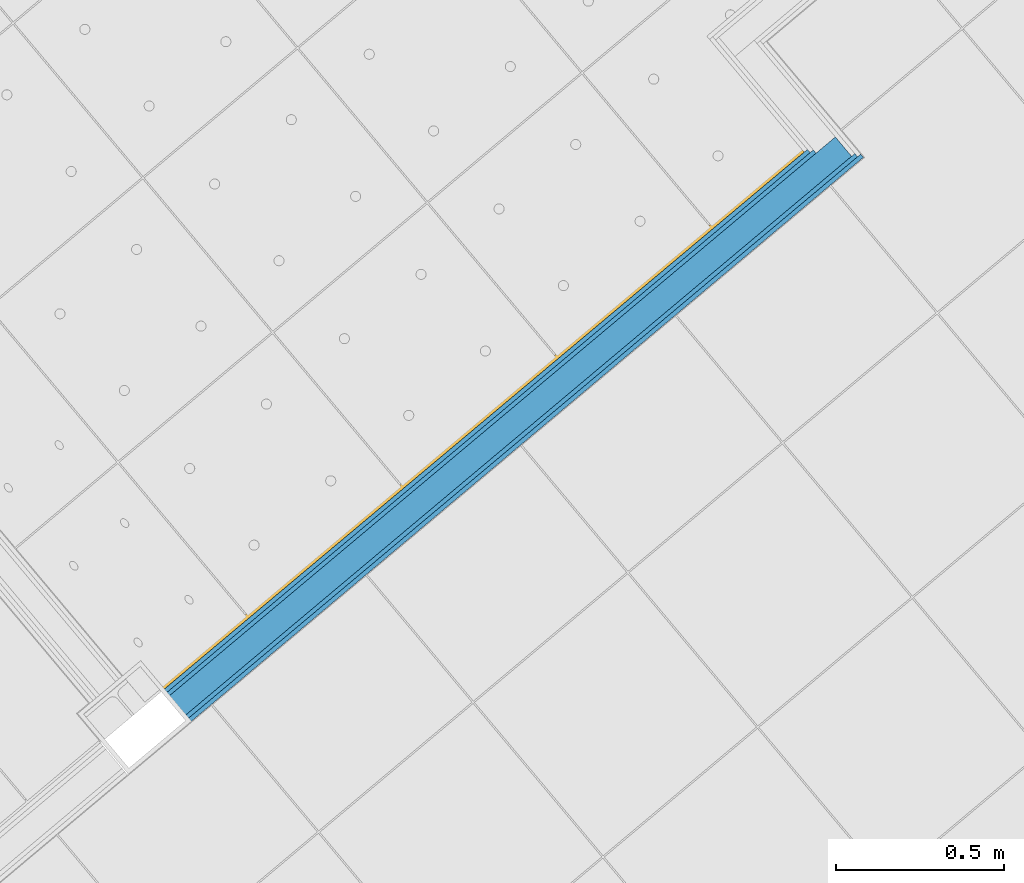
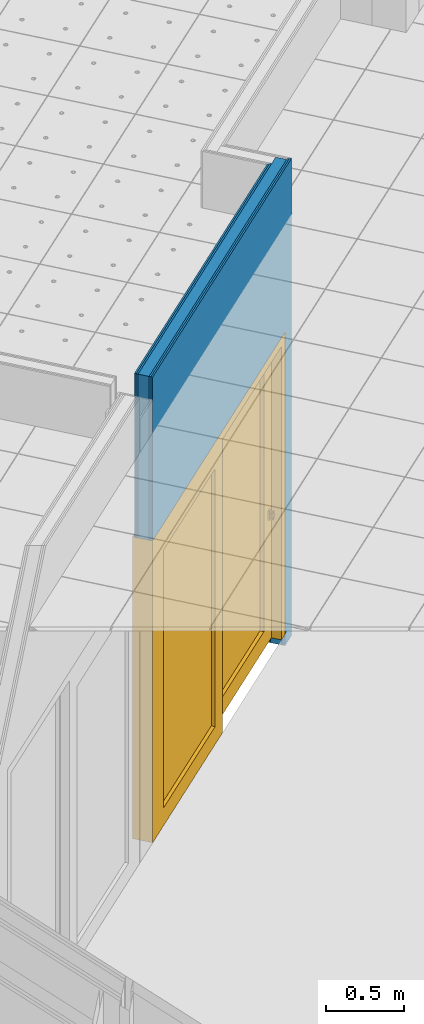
# One storey, part 9 of 338: 5 building element parts, 1 door, 1 opening, 1 element without a shape of its own.
"""IFC2X3 building model written with IfcOpenShell, lengths in millimetres."""

from ifc_helpers import new_model, entity, si_unit, converted_unit, derived_unit, money_unit, direction, frame, origin_with_axes, place, context, subcontext, project, spatial, open_shell, faceted_brep, surface_model, source, transform, mapped, material, type_object, type_shapes, element, fill, aggregate, save


model = new_model("IFC2X3")

# Units and contexts
model_context = context("Model", 3, precision=0.01, world=origin_with_axes(), true_north=direction((0.0, 1.0)))
plan_context = context("Plan", 3, precision=0.01, world=origin_with_axes(), true_north=direction((0.0, 1.0)))
body_context = subcontext(model_context, "Body", "Model", "MODEL_VIEW")
ifc_project = project(units=[si_unit("LENGTHUNIT", "METRE", prefix="MILLI"), si_unit("AREAUNIT", "SQUARE_METRE"), si_unit("VOLUMEUNIT", "CUBIC_METRE"), converted_unit("PLANEANGLEUNIT", "DEGREE", entity("IfcPlaneAngleMeasure", 0.0174532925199), si_unit("PLANEANGLEUNIT", "RADIAN"), dimensions=[0, 0, 0, 0, 0, 0, 0]), money_unit("EUR"), converted_unit("TIMEUNIT", "Year", entity("IfcTimeMeasure", 31556926.0), si_unit("TIMEUNIT", "SECOND"), dimensions=[0, 0, 1, 0, 0, 0, 0]), si_unit("MASSUNIT", "GRAM", prefix="KILO"), si_unit("THERMODYNAMICTEMPERATUREUNIT", "DEGREE_CELSIUS"), si_unit("LUMINOUSINTENSITYUNIT", "LUMEN"), si_unit("ENERGYUNIT", "JOULE", prefix="MEGA"), derived_unit("THERMALCONDUCTANCEUNIT", [(si_unit("POWERUNIT", "WATT"), 1), (si_unit("LENGTHUNIT", "METRE"), -1), (si_unit("THERMODYNAMICTEMPERATUREUNIT", "KELVIN"), -1)]), derived_unit("SPECIFICHEATCAPACITYUNIT", [(si_unit("ENERGYUNIT", "JOULE"), 1), (si_unit("MASSUNIT", "GRAM", prefix="KILO"), -1), (si_unit("THERMODYNAMICTEMPERATUREUNIT", "KELVIN"), -1)]), derived_unit("MASSDENSITYUNIT", [(si_unit("MASSUNIT", "GRAM", prefix="KILO"), 1), (si_unit("VOLUMEUNIT", "CUBIC_METRE"), -1)])], contexts=[model_context, plan_context])

# Site, building, storey
site_placement = place(None, origin_with_axes())
site = spatial("IfcSite", under=ifc_project, at=site_placement, Name="Fortuinstraat Woensdrecht", CompositionType="ELEMENT")
building_placement = place(site_placement, origin_with_axes())
building = spatial("IfcBuilding", under=site, at=building_placement, Name="IKC Fortuna", CompositionType="ELEMENT")
storey_placement = place(building_placement, origin_with_axes())
storey = spatial("IfcBuildingStorey", under=building, at=storey_placement, Name="00 begane grond", CompositionType="ELEMENT", Elevation=0.0)

# Door
door_style = type_object("IfcDoorStyle", Name="DSn 25", ConstructionType="NOTDEFINED", OperationType="USERDEFINED", ParameterTakesPrecedence=False, Sizeable=False)
shared_shape = source(origin_with_axes(), body_context, "Body", "SurfaceModel", [
    faceted_brep([(-1242.5, 0.0, 0.0), (-1175.5, 0.0, 0.0), (-1175.5, -139.0, 0.0), (-1242.5, -139.0, 0.0), (-1242.5, 0.0, 2300.0), (-1175.5, 0.0, 2300.0), (-1175.5, -139.0, 2300.0), (-1242.5, -139.0, 2300.0)], [[[0, 1, 2, 3]], [[0, 4, 5, 1]], [[1, 5, 6, 2]], [[3, 2, 6, 7]], [[4, 0, 3, 7]], [[5, 4, 7, 6]]]),
    faceted_brep([(1242.5, 0.0, 0.0), (1242.5, 0.0, 2300.0), (1242.5, -139.0, 2300.0), (1242.5, -139.0, 0.0), (1175.5, 0.0, 0.0), (1175.5, 0.0, 2300.0), (1175.5, -139.0, 2300.0), (1175.5, -139.0, 0.0)], [[[0, 1, 2, 3]], [[0, 4, 5, 1]], [[1, 5, 6, 2]], [[3, 2, 6, 7]], [[4, 0, 3, 7]], [[5, 4, 7, 6]]]),
    faceted_brep([(-1242.5, 0.0, 2367.0), (-1242.5, 0.0, 2300.0), (-1242.5, -139.0, 2300.0), (-1242.5, -139.0, 2367.0), (1242.5, 0.0, 2367.0), (1242.5, 0.0, 2300.0), (1175.5, 0.0, 2300.0), (-1175.5, 0.0, 2300.0), (-1175.5, -139.0, 2300.0), (1175.5, -139.0, 2300.0), (1242.5, -139.0, 2300.0), (1242.5, -139.0, 2367.0)], [[[0, 1, 2, 3]], [[0, 4, 5, 6, 7, 1]], [[1, 7, 8, 2]], [[3, 2, 8, 9, 10, 11]], [[4, 0, 3, 11]], [[5, 4, 11, 10]], [[6, 5, 10, 9]], [[7, 6, 9, 8]]]),
    faceted_brep([(1175.5, 0.0, 139.0), (1175.5, -64.5, 139.0), (1036.5, -64.5, 139.0), (1036.5, 0.0, 139.0), (1175.5, 0.0, 2161.0), (1175.5, -64.5, 2161.0), (1036.5, -64.5, 2161.0), (1036.5, 0.0, 2161.0)], [[[0, 1, 2, 3]], [[4, 5, 1, 0]], [[1, 5, 6, 2]], [[3, 2, 6, 7]], [[0, 3, 7, 4]], [[7, 6, 5, 4]]]),
    faceted_brep([(-69.5, 0.0, 139.0), (-69.5, -64.5, 139.0), (-69.5, -64.5, 2161.0), (-69.5, 0.0, 2161.0), (69.5, 0.0, 139.0), (69.5, -64.5, 139.0), (69.5, -64.5, 2161.0), (69.5, 0.0, 2161.0)], [[[0, 1, 2, 3]], [[4, 5, 1, 0]], [[1, 5, 6, 2]], [[3, 2, 6, 7]], [[0, 3, 7, 4]], [[7, 6, 5, 4]]]),
    faceted_brep([(1175.5, 0.0, 0.0), (1175.5, -64.5, 0.0), (-69.5, -64.5, 0.0), (-69.5, 0.0, 0.0), (1175.5, 0.0, 139.0), (1175.5, -64.5, 139.0), (1036.5, -64.5, 139.0), (69.5, -64.5, 139.0), (-69.5, -64.5, 139.0), (-69.5, 0.0, 139.0), (69.5, 0.0, 139.0), (1036.5, 0.0, 139.0)], [[[0, 1, 2, 3]], [[4, 5, 1, 0]], [[1, 5, 6, 7, 8, 2]], [[3, 2, 8, 9]], [[0, 3, 9, 10, 11, 4]], [[11, 6, 5, 4]], [[10, 7, 6, 11]], [[9, 8, 7, 10]]]),
    faceted_brep([(1175.5, 0.0, 2300.0), (1175.5, -64.5, 2300.0), (1175.5, -64.5, 2161.0), (1175.5, 0.0, 2161.0), (-69.5, 0.0, 2300.0), (-69.5, -64.5, 2300.0), (-69.5, -64.5, 2161.0), (69.5, -64.5, 2161.0), (1036.5, -64.5, 2161.0), (1036.5, 0.0, 2161.0), (69.5, 0.0, 2161.0), (-69.5, 0.0, 2161.0)], [[[0, 1, 2, 3]], [[4, 5, 1, 0]], [[1, 5, 6, 7, 8, 2]], [[3, 2, 8, 9]], [[0, 3, 9, 10, 11, 4]], [[11, 6, 5, 4]], [[10, 7, 6, 11]], [[9, 8, 7, 10]]]),
    surface_model("IfcShellBasedSurfaceModel", [(1036.5, -26.25, 139.0), (69.5, -26.25, 139.0), (69.5, -26.25, 2161.0), (1036.5, -26.25, 2161.0)], [open_shell([[[0, 1, 2, 3]]])]),
    surface_model("IfcShellBasedSurfaceModel", [(1036.5, -38.25, 139.0), (1036.5, -38.25, 2161.0), (69.5, -38.25, 2161.0), (69.5, -38.25, 139.0)], [open_shell([[[0, 1, 2, 3]]])]),
    faceted_brep([(-1110.5, -134.0, 965.0), (-1110.5, -134.0, 1035.0), (-1110.5, -144.0, 1035.0), (-1110.5, -144.0, 965.0), (-1140.5, -134.0, 965.0), (-1140.5, -134.0, 1035.0), (-1140.5, -144.0, 1035.0), (-1140.5, -144.0, 965.0)], [[[0, 1, 2, 3]], [[0, 4, 5, 1]], [[1, 5, 6, 2]], [[3, 2, 6, 7]], [[4, 0, 3, 7]], [[5, 4, 7, 6]]]),
    faceted_brep([(-1124.13436775, -144.0, 1006.86549696), (-1122.82121597, -144.0, 1006.46715673), (-1121.61100837, -144.0, 1005.82028729), (-1120.55025253, -144.0, 1004.94974747), (-1119.67971271, -144.0, 1003.88899163), (-1119.03284327, -144.0, 1002.67878403), (-1118.63450304, -144.0, 1001.36563225), (-1118.5, -144.0, 1000.0), (-1118.63450304, -144.0, 998.634367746), (-1119.03284327, -144.0, 997.321215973), (-1119.67971271, -144.0, 996.111008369), (-1120.55025253, -144.0, 995.050252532), (-1121.61100837, -144.0, 994.179712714), (-1122.82121597, -144.0, 993.532843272), (-1124.13436775, -144.0, 993.134503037), (-1125.5, -144.0, 993.0), (-1126.86563225, -144.0, 993.134503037), (-1128.17878403, -144.0, 993.532843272), (-1129.38899163, -144.0, 994.179712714), (-1130.44974747, -144.0, 995.050252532), (-1131.32028729, -144.0, 996.111008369), (-1131.96715673, -144.0, 997.321215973), (-1132.36549696, -144.0, 998.634367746), (-1132.5, -144.0, 1000.0), (-1132.36549696, -144.0, 1001.36563225), (-1131.96715673, -144.0, 1002.67878403), (-1131.32028729, -144.0, 1003.88899163), (-1130.44974747, -144.0, 1004.94974747), (-1129.38899163, -144.0, 1005.82028729), (-1128.17878403, -144.0, 1006.46715673), (-1126.86563225, -144.0, 1006.86549696), (-1125.5, -144.0, 1007.0), (-1124.13436775, -159.0, 1006.86549696), (-1122.82121597, -159.0, 1006.46715673), (-1121.61100837, -159.0, 1005.82028729), (-1120.55025253, -159.0, 1004.94974747), (-1119.67971271, -159.0, 1003.88899163), (-1119.03284327, -159.0, 1002.67878403), (-1118.63450304, -159.0, 1001.36563225), (-1118.5, -159.0, 1000.0), (-1118.63450304, -159.0, 998.634367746), (-1119.03284327, -159.0, 997.321215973), (-1119.67971271, -159.0, 996.111008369), (-1120.55025253, -159.0, 995.050252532), (-1121.61100837, -159.0, 994.179712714), (-1122.82121597, -159.0, 993.532843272), (-1124.13436775, -159.0, 993.134503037), (-1125.5, -159.0, 993.0), (-1126.86563225, -159.0, 993.134503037), (-1128.17878403, -159.0, 993.532843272), (-1129.38899163, -159.0, 994.179712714), (-1130.44974747, -159.0, 995.050252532), (-1131.32028729, -159.0, 996.111008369), (-1131.96715673, -159.0, 997.321215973), (-1132.36549696, -159.0, 998.634367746), (-1132.5, -159.0, 1000.0), (-1132.36549696, -159.0, 1001.36563225), (-1131.96715673, -159.0, 1002.67878403), (-1131.32028729, -159.0, 1003.88899163), (-1130.44974747, -159.0, 1004.94974747), (-1129.38899163, -159.0, 1005.82028729), (-1128.17878403, -159.0, 1006.46715673), (-1126.86563225, -159.0, 1006.86549696), (-1125.5, -159.0, 1007.0)], [[[0, 1, 2, 3, 4, 5, 6, 7, 8, 9, 10, 11, 12, 13, 14, 15, 16, 17, 18, 19, 20, 21, 22, 23, 24, 25, 26, 27, 28, 29, 30, 31]], [[1, 0, 32, 33]], [[2, 1, 33, 34]], [[3, 2, 34, 35]], [[4, 3, 35, 36]], [[5, 4, 36, 37]], [[6, 5, 37, 38]], [[7, 6, 38, 39]], [[8, 7, 39, 40]], [[9, 8, 40, 41]], [[10, 9, 41, 42]], [[11, 10, 42, 43]], [[12, 11, 43, 44]], [[13, 12, 44, 45]], [[14, 13, 45, 46]], [[15, 14, 46, 47]], [[16, 15, 47, 48]], [[17, 16, 48, 49]], [[18, 17, 49, 50]], [[19, 18, 50, 51]], [[20, 19, 51, 52]], [[21, 20, 52, 53]], [[22, 21, 53, 54]], [[23, 22, 54, 55]], [[24, 23, 55, 56]], [[25, 24, 56, 57]], [[26, 25, 57, 58]], [[27, 26, 58, 59]], [[28, 27, 59, 60]], [[29, 28, 60, 61]], [[30, 29, 61, 62]], [[31, 30, 62, 63]], [[0, 31, 63, 32]], [[32, 63, 62, 61, 60, 59, 58, 57, 56, 55, 54, 53, 52, 51, 50, 49, 48, 47, 46, 45, 44, 43, 42, 41, 40, 39, 38, 37, 36, 35, 34, 33]]]),
    faceted_brep([(-1115.5, -159.0, 990.0), (-1115.5, -159.0, 1010.0), (-1115.5, -169.0, 1010.0), (-1115.5, -169.0, 990.0), (-1135.5, -159.0, 990.0), (-1135.5, -159.0, 1010.0), (-1135.5, -169.0, 1010.0), (-1135.5, -169.0, 990.0)], [[[0, 1, 2, 3]], [[0, 4, 5, 1]], [[1, 5, 6, 2]], [[3, 2, 6, 7]], [[4, 0, 3, 7]], [[5, 4, 7, 6]]]),
    faceted_brep([(-1115.5, -169.0, 990.0), (-1135.5, -169.0, 990.0), (-1130.5, -167.0, 965.0), (-1120.5, -167.0, 965.0), (-1115.5, -159.0, 990.0), (-1135.5, -159.0, 990.0), (-1130.5, -163.0, 965.0), (-1120.5, -163.0, 965.0)], [[[0, 1, 2, 3]], [[0, 4, 5, 1]], [[1, 5, 6, 2]], [[3, 2, 6, 7]], [[4, 0, 3, 7]], [[5, 4, 7, 6]]]),
    faceted_brep([(-1115.5, -169.0, 1010.0), (-1120.5, -167.0, 1035.0), (-1130.5, -167.0, 1035.0), (-1135.5, -169.0, 1010.0), (-1115.5, -159.0, 1010.0), (-1120.5, -163.0, 1035.0), (-1130.5, -163.0, 1035.0), (-1135.5, -159.0, 1010.0)], [[[0, 1, 2, 3]], [[4, 5, 1, 0]], [[1, 5, 6, 2]], [[3, 2, 6, 7]], [[0, 3, 7, 4]], [[7, 6, 5, 4]]]),
    faceted_brep([(-1110.5, -69.5, 965.0), (-1110.5, -59.5, 965.0), (-1110.5, -59.5, 1035.0), (-1110.5, -69.5, 1035.0), (-1140.5, -69.5, 965.0), (-1140.5, -59.5, 965.0), (-1140.5, -59.5, 1035.0), (-1140.5, -69.5, 1035.0)], [[[0, 1, 2, 3]], [[4, 5, 1, 0]], [[1, 5, 6, 2]], [[3, 2, 6, 7]], [[0, 3, 7, 4]], [[7, 6, 5, 4]]]),
    faceted_brep([(-1124.13436775, -59.5, 1006.86549696), (-1125.5, -59.5, 1007.0), (-1126.86563225, -59.5, 1006.86549696), (-1128.17878403, -59.5, 1006.46715673), (-1129.38899163, -59.5, 1005.82028729), (-1130.44974747, -59.5, 1004.94974747), (-1131.32028729, -59.5, 1003.88899163), (-1131.96715673, -59.5, 1002.67878403), (-1132.36549696, -59.5, 1001.36563225), (-1132.5, -59.5, 1000.0), (-1132.36549696, -59.5, 998.634367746), (-1131.96715673, -59.5, 997.321215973), (-1131.32028729, -59.5, 996.111008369), (-1130.44974747, -59.5, 995.050252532), (-1129.38899163, -59.5, 994.179712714), (-1128.17878403, -59.5, 993.532843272), (-1126.86563225, -59.5, 993.134503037), (-1125.5, -59.5, 993.0), (-1124.13436775, -59.5, 993.134503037), (-1122.82121597, -59.5, 993.532843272), (-1121.61100837, -59.5, 994.179712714), (-1120.55025253, -59.5, 995.050252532), (-1119.67971271, -59.5, 996.111008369), (-1119.03284327, -59.5, 997.321215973), (-1118.63450304, -59.5, 998.634367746), (-1118.5, -59.5, 1000.0), (-1118.63450304, -59.5, 1001.36563225), (-1119.03284327, -59.5, 1002.67878403), (-1119.67971271, -59.5, 1003.88899163), (-1120.55025253, -59.5, 1004.94974747), (-1121.61100837, -59.5, 1005.82028729), (-1122.82121597, -59.5, 1006.46715673), (-1124.13436775, -44.5, 1006.86549696), (-1125.5, -44.5, 1007.0), (-1126.86563225, -44.5, 1006.86549696), (-1128.17878403, -44.5, 1006.46715673), (-1129.38899163, -44.5, 1005.82028729), (-1130.44974747, -44.5, 1004.94974747), (-1131.32028729, -44.5, 1003.88899163), (-1131.96715673, -44.5, 1002.67878403), (-1132.36549696, -44.5, 1001.36563225), (-1132.5, -44.5, 1000.0), (-1132.36549696, -44.5, 998.634367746), (-1131.96715673, -44.5, 997.321215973), (-1131.32028729, -44.5, 996.111008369), (-1130.44974747, -44.5, 995.050252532), (-1129.38899163, -44.5, 994.179712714), (-1128.17878403, -44.5, 993.532843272), (-1126.86563225, -44.5, 993.134503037), (-1125.5, -44.5, 993.0), (-1124.13436775, -44.5, 993.134503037), (-1122.82121597, -44.5, 993.532843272), (-1121.61100837, -44.5, 994.179712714), (-1120.55025253, -44.5, 995.050252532), (-1119.67971271, -44.5, 996.111008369), (-1119.03284327, -44.5, 997.321215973), (-1118.63450304, -44.5, 998.634367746), (-1118.5, -44.5, 1000.0), (-1118.63450304, -44.5, 1001.36563225), (-1119.03284327, -44.5, 1002.67878403), (-1119.67971271, -44.5, 1003.88899163), (-1120.55025253, -44.5, 1004.94974747), (-1121.61100837, -44.5, 1005.82028729), (-1122.82121597, -44.5, 1006.46715673)], [[[0, 1, 2, 3, 4, 5, 6, 7, 8, 9, 10, 11, 12, 13, 14, 15, 16, 17, 18, 19, 20, 21, 22, 23, 24, 25, 26, 27, 28, 29, 30, 31]], [[0, 32, 33, 1]], [[1, 33, 34, 2]], [[2, 34, 35, 3]], [[3, 35, 36, 4]], [[4, 36, 37, 5]], [[5, 37, 38, 6]], [[6, 38, 39, 7]], [[7, 39, 40, 8]], [[8, 40, 41, 9]], [[9, 41, 42, 10]], [[10, 42, 43, 11]], [[11, 43, 44, 12]], [[12, 44, 45, 13]], [[13, 45, 46, 14]], [[14, 46, 47, 15]], [[15, 47, 48, 16]], [[16, 48, 49, 17]], [[17, 49, 50, 18]], [[18, 50, 51, 19]], [[19, 51, 52, 20]], [[20, 52, 53, 21]], [[21, 53, 54, 22]], [[22, 54, 55, 23]], [[23, 55, 56, 24]], [[24, 56, 57, 25]], [[25, 57, 58, 26]], [[26, 58, 59, 27]], [[27, 59, 60, 28]], [[28, 60, 61, 29]], [[29, 61, 62, 30]], [[30, 62, 63, 31]], [[31, 63, 32, 0]], [[32, 63, 62, 61, 60, 59, 58, 57, 56, 55, 54, 53, 52, 51, 50, 49, 48, 47, 46, 45, 44, 43, 42, 41, 40, 39, 38, 37, 36, 35, 34, 33]]]),
    faceted_brep([(-1115.5, -44.5, 990.0), (-1115.5, -34.5, 990.0), (-1115.5, -34.5, 1010.0), (-1115.5, -44.5, 1010.0), (-1135.5, -44.5, 990.0), (-1135.5, -34.5, 990.0), (-1135.5, -34.5, 1010.0), (-1135.5, -44.5, 1010.0)], [[[0, 1, 2, 3]], [[4, 5, 1, 0]], [[1, 5, 6, 2]], [[3, 2, 6, 7]], [[0, 3, 7, 4]], [[7, 6, 5, 4]]]),
    faceted_brep([(-1115.5, -34.5, 990.0), (-1120.5, -36.5, 965.0), (-1130.5, -36.5, 965.0), (-1135.5, -34.5, 990.0), (-1115.5, -44.5, 990.0), (-1120.5, -40.5, 965.0), (-1130.5, -40.5, 965.0), (-1135.5, -44.5, 990.0)], [[[0, 1, 2, 3]], [[4, 5, 1, 0]], [[1, 5, 6, 2]], [[3, 2, 6, 7]], [[0, 3, 7, 4]], [[7, 6, 5, 4]]]),
    faceted_brep([(-1115.5, -34.5, 1010.0), (-1135.5, -34.5, 1010.0), (-1130.5, -36.5, 1035.0), (-1120.5, -36.5, 1035.0), (-1115.5, -44.5, 1010.0), (-1135.5, -44.5, 1010.0), (-1130.5, -40.5, 1035.0), (-1120.5, -40.5, 1035.0)], [[[0, 1, 2, 3]], [[0, 4, 5, 1]], [[1, 5, 6, 2]], [[3, 2, 6, 7]], [[4, 0, 3, 7]], [[5, 4, 7, 6]]]),
    faceted_brep([(69.5, -69.5, 139.0), (69.5, -134.0, 139.0), (-69.5, -134.0, 139.0), (-69.5, -69.5, 139.0), (69.5, -69.5, 2161.0), (69.5, -134.0, 2161.0), (-69.5, -134.0, 2161.0), (-69.5, -69.5, 2161.0)], [[[0, 1, 2, 3]], [[4, 5, 1, 0]], [[1, 5, 6, 2]], [[3, 2, 6, 7]], [[0, 3, 7, 4]], [[7, 6, 5, 4]]]),
    faceted_brep([(-1175.5, -69.5, 139.0), (-1175.5, -134.0, 139.0), (-1175.5, -134.0, 2161.0), (-1175.5, -69.5, 2161.0), (-1036.5, -69.5, 139.0), (-1036.5, -134.0, 139.0), (-1036.5, -134.0, 2161.0), (-1036.5, -69.5, 2161.0)], [[[0, 1, 2, 3]], [[4, 5, 1, 0]], [[1, 5, 6, 2]], [[3, 2, 6, 7]], [[0, 3, 7, 4]], [[7, 6, 5, 4]]]),
    faceted_brep([(69.5, -69.5, 0.0), (69.5, -134.0, 0.0), (-1175.5, -134.0, 0.0), (-1175.5, -69.5, 0.0), (69.5, -69.5, 139.0), (69.5, -134.0, 139.0), (-69.5, -134.0, 139.0), (-1036.5, -134.0, 139.0), (-1175.5, -134.0, 139.0), (-1175.5, -69.5, 139.0), (-1036.5, -69.5, 139.0), (-69.5, -69.5, 139.0)], [[[0, 1, 2, 3]], [[4, 5, 1, 0]], [[1, 5, 6, 7, 8, 2]], [[3, 2, 8, 9]], [[0, 3, 9, 10, 11, 4]], [[11, 6, 5, 4]], [[10, 7, 6, 11]], [[9, 8, 7, 10]]]),
    faceted_brep([(69.5, -69.5, 2300.0), (69.5, -134.0, 2300.0), (69.5, -134.0, 2161.0), (69.5, -69.5, 2161.0), (-1175.5, -69.5, 2300.0), (-1175.5, -134.0, 2300.0), (-1175.5, -134.0, 2161.0), (-1036.5, -134.0, 2161.0), (-69.5, -134.0, 2161.0), (-69.5, -69.5, 2161.0), (-1036.5, -69.5, 2161.0), (-1175.5, -69.5, 2161.0)], [[[0, 1, 2, 3]], [[4, 5, 1, 0]], [[1, 5, 6, 7, 8, 2]], [[3, 2, 8, 9]], [[0, 3, 9, 10, 11, 4]], [[11, 6, 5, 4]], [[10, 7, 6, 11]], [[9, 8, 7, 10]]]),
    surface_model("IfcShellBasedSurfaceModel", [(-69.5, -95.75, 139.0), (-1036.5, -95.75, 139.0), (-1036.5, -95.75, 2161.0), (-69.5, -95.75, 2161.0)], [open_shell([[[0, 1, 2, 3]]])]),
    surface_model("IfcShellBasedSurfaceModel", [(-69.5, -107.75, 139.0), (-69.5, -107.75, 2161.0), (-1036.5, -107.75, 2161.0), (-1036.5, -107.75, 139.0)], [open_shell([[[0, 1, 2, 3]]])]),
])
type_shapes(door_style, [shared_shape])
wall_placement = place(storey_placement, frame((10683.810698, -801.623018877, 1360.0), z_axis=(0.0, 0.0, 1.0), x_axis=(0.766044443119, 0.642787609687, 0.0)))
opening_placement = place(wall_placement, frame((1242.5, 0.0, 90.0), z_axis=(0.0, 0.0, 1.0), x_axis=(1.0, 0.0, 0.0)))
door_placement = place(opening_placement, frame((1242.5, 0.0, 0.0), z_axis=(0.0, 0.0, 1.0), x_axis=(-1.0, 0.0, 0.0)))
door = element("IfcDoor", 1, at=door_placement, inside=storey, type_object=door_style, Name="32_Deur_h.03", ObjectType="DOOR", OverallHeight=2367.0, OverallWidth=2485.0, context=body_context, shape_type="MappedRepresentation", body=[
    mapped(shared_shape, transform((1242.5, 0.0, 0.0))),
])

# Wall, opening
wall_type = type_object("IfcWallType", Name="MS125 2.75.2A 125", PredefinedType="NOTDEFINED")
wall = element("IfcWall", 2, at=wall_placement, inside=storey, type_object=wall_type, Name="22_Wand_Binnenwand")
opening = element("IfcOpeningElement", 3, at=opening_placement, cuts=wall, Name="32_Deur_h.03", context=body_context, shape_type="Brep", body=[
    faceted_brep([(-1242.5, 125.0, 2367.0), (-1242.5, 125.0, -90.0), (-1242.5, -250.0, -90.0), (-1242.5, -250.0, 2367.0), (1242.5, 125.0, 2367.0), (1242.5, 125.0, -90.0), (1242.5, -250.0, -90.0), (1242.5, -250.0, 2367.0)], [[[0, 1, 2, 3]], [[0, 4, 5, 1]], [[1, 5, 6, 2]], [[3, 2, 6, 7]], [[4, 0, 3, 7]], [[5, 4, 7, 6]]]),
])

fill(opening, door)

# Building element part
ifc_material_1 = material(Name="Gipsplaat")
building_element_part_1_placement = place(wall_placement, origin_with_axes())
building_element_part_1 = element("IfcBuildingElementPart", 4, at=building_element_part_1_placement, material=ifc_material_1, Name="Gipsplaat", context=body_context, shape_type="Brep", body=[
    faceted_brep([(2485.0, 112.5, 2457.0), (2485.0, 112.5, 0.0), (2497.5, 112.5, 0.0), (2497.5, 112.5, 3740.0), (0.0, 112.5, 3740.0), (0.0, 112.5, 2457.0), (2485.0, 125.0, 2457.0), (2485.0, 125.0, 0.0), (2497.5, 125.0, 0.0), (2497.5, 125.0, 3740.0), (0.0, 125.0, 3740.0), (0.0, 125.0, 2457.0)], [[[0, 1, 2, 3, 4, 5]], [[1, 0, 6, 7]], [[1, 7, 8, 2]], [[2, 8, 9, 3]], [[10, 4, 3, 9]], [[11, 5, 4, 10]], [[0, 5, 11, 6]], [[6, 11, 10, 9, 8, 7]]]),
])

building_element_part_2_placement = place(wall_placement, origin_with_axes())
building_element_part_2 = element("IfcBuildingElementPart", 5, at=building_element_part_2_placement, material=ifc_material_1, Name="Gipsplaat", context=body_context, shape_type="Brep", body=[
    faceted_brep([(2485.0, 100.0, 2457.0), (2485.0, 100.0, 0.0), (2510.0, 100.0, 0.0), (2510.0, 100.0, 3740.0), (0.0, 100.0, 3740.0), (0.0, 100.0, 2457.0), (2485.0, 112.5, 2457.0), (2485.0, 112.5, 0.0), (2510.0, 112.5, 0.0), (2510.0, 112.5, 3740.0), (0.0, 112.5, 3740.0), (0.0, 112.5, 2457.0)], [[[0, 1, 2, 3, 4, 5]], [[1, 0, 6, 7]], [[1, 7, 8, 2]], [[2, 8, 9, 3]], [[10, 4, 3, 9]], [[11, 5, 4, 10]], [[0, 5, 11, 6]], [[6, 11, 10, 9, 8, 7]]]),
])

ifc_material_2 = material(Name="Isolatie - Steenwol LSW")
building_element_part_3_placement = place(wall_placement, origin_with_axes())
building_element_part_3 = element("IfcBuildingElementPart", 6, at=building_element_part_3_placement, material=ifc_material_2, Name="Isolatie - Steenwol LSW", context=body_context, shape_type="Brep", body=[
    faceted_brep([(2485.0, 25.0, 2457.0), (2485.0, 25.0, 0.0), (2585.0, 25.0, 0.0), (2585.0, 25.0, 3740.0), (0.0, 25.0, 3740.0), (0.0, 25.0, 2457.0), (2485.0, 100.0, 2457.0), (2485.0, 100.0, 0.0), (2585.0, 100.0, 0.0), (2585.0, 100.0, 3740.0), (0.0, 100.0, 3740.0), (0.0, 100.0, 2457.0)], [[[0, 1, 2, 3, 4, 5]], [[1, 0, 6, 7]], [[1, 7, 8, 2]], [[2, 8, 9, 3]], [[10, 4, 3, 9]], [[11, 5, 4, 10]], [[0, 5, 11, 6]], [[6, 11, 10, 9, 8, 7]]]),
])

building_element_part_4_placement = place(wall_placement, origin_with_axes())
building_element_part_4 = element("IfcBuildingElementPart", 7, at=building_element_part_4_placement, material=ifc_material_1, Name="Gipsplaat", context=body_context, shape_type="Brep", body=[
    faceted_brep([(2485.0, 12.5, 2457.0), (2485.0, 12.5, 0.0), (2597.5, 12.5, 0.0), (2597.5, 12.5, 3740.0), (0.0, 12.5, 3740.0), (0.0, 12.5, 2457.0), (2485.0, 25.0, 2457.0), (2485.0, 25.0, 0.0), (2597.5, 25.0, 0.0), (2597.5, 25.0, 3740.0), (0.0, 25.0, 3740.0), (0.0, 25.0, 2457.0)], [[[0, 1, 2, 3, 4, 5]], [[1, 0, 6, 7]], [[1, 7, 8, 2]], [[2, 8, 9, 3]], [[10, 4, 3, 9]], [[11, 5, 4, 10]], [[0, 5, 11, 6]], [[6, 11, 10, 9, 8, 7]]]),
])

building_element_part_5_placement = place(wall_placement, origin_with_axes())
building_element_part_5 = element("IfcBuildingElementPart", 8, at=building_element_part_5_placement, material=ifc_material_1, Name="Gipsplaat", context=body_context, shape_type="Brep", body=[
    faceted_brep([(2485.0, 0.0, 2457.0), (2485.0, 0.0, 0.0), (2610.0, 0.0, 0.0), (2610.0, 0.0, 3740.0), (0.0, 0.0, 3740.0), (0.0, 0.0, 2457.0), (2485.0, 12.5, 2457.0), (2485.0, 12.5, 0.0), (2610.0, 12.5, 0.0), (2610.0, 12.5, 3740.0), (0.0, 12.5, 3740.0), (0.0, 12.5, 2457.0)], [[[0, 1, 2, 3, 4, 5]], [[1, 0, 6, 7]], [[1, 7, 8, 2]], [[2, 8, 9, 3]], [[10, 4, 3, 9]], [[11, 5, 4, 10]], [[0, 5, 11, 6]], [[6, 11, 10, 9, 8, 7]]]),
])

aggregate(wall, [building_element_part_1, building_element_part_2, building_element_part_3, building_element_part_4, building_element_part_5])

save(model, "model.ifc")
